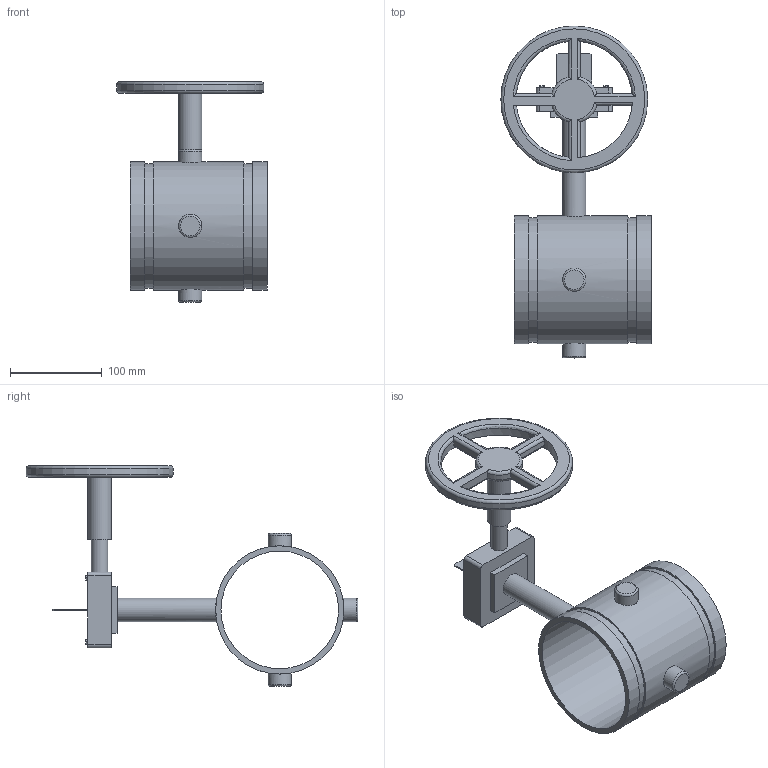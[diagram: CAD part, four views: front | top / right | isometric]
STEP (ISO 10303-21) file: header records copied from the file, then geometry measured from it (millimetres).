
FILE_DESCRIPTION(/* description */ ('VIC FIRELOCK BUTTERFLY VALVE SERIES 707-C W/ WEATHERPROOF ACTUATOR FOR 300 PSI','CAx-IF Rec.Pracs.---Representation and Presentation of Product Manufacturing Information (PMI)---4.0---2014-10-13'),/* implementation_level */ '2;1');
FILE_NAME(/* name */ 'C:\Users\Vjadhav\AppData\Roaming\Autodesk\ApplicationPlugins\Back Up\Victaulic_FP-FireLock_Valve Butterfly_Series 707C (OGS)-Closed\Victaulic_FP-FireLock_Valve Butterfly_Series 707C (OGS)-Closed_05.0 (139.7) (125).stp',/* time_stamp */ '2020-07-20T15:14:57+06:00',/* author */ ('kkamble'),/* organization */ ('Victaulic'),/* preprocessor_version */ 'ST-DEVELOPER v17.2',/* originating_system */ 'Autodesk Inventor 2019',/* authorisation */ '');
FILE_SCHEMA (('AP242_MANAGED_MODEL_BASED_3D_ENGINEERING_MIM_LF { 1 0 10303 442 1 1 4 }'));
Length unit declared in the file: inch
Products named in the file (1): 707C-05.0 (139.7)
Bounding box: 163.83 x 361.44 x 240.54 mm (x, y, z)
Volume: 795361.5 mm3; surface area: 214140.8 mm2
Topology: 1 solids, 1 shells, 122 faces, 312 edges, 209 vertices
Faces by surface type: plane 66, cylinder 40, torus 16
Full cylindrical faces by diameter (mm): 17.78 x1, 25.4 x5, 128.194 x1, 135.484 x2, 139.7 x3, 160.02 x1
Entity records: 4445 total; most frequent: CARTESIAN_POINT 1165, DIRECTION 637, ORIENTED_EDGE 624, EDGE_CURVE 312, AXIS2_PLACEMENT_3D 229, VERTEX_POINT 209, LINE 179, VECTOR 179
